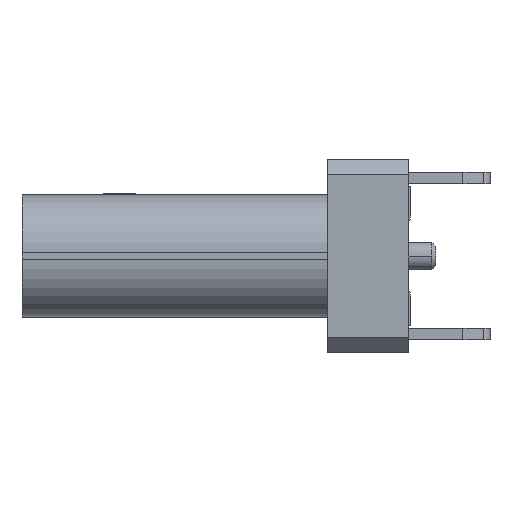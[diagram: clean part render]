
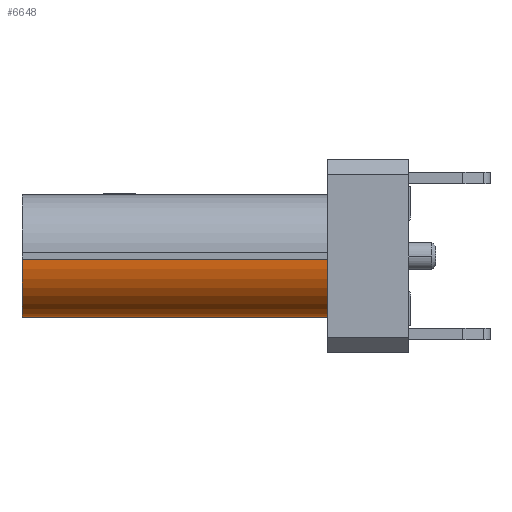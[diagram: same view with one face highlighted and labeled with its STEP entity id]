
A CAD part, left-side view. The second image highlights one B-rep face of the part: STEP entity #6648.
In plain terms, the highlighted cylindrical face has radius 1.5 mm (diameter 3 mm), a partial arc.
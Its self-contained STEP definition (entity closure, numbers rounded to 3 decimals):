
#388 = EDGE_CURVE ( 'NONE', #17693, #10707, #8419, .T. ) ;
#582 = CARTESIAN_POINT ( 'NONE',  ( 40.205, 6.951, -1.66 ) ) ;
#852 = CARTESIAN_POINT ( 'NONE',  ( 41.705, 21.951, -1.66 ) ) ;
#1932 = CARTESIAN_POINT ( 'NONE',  ( 41.705, 14.851, -1.66 ) ) ;
#2045 = CYLINDRICAL_SURFACE ( 'NONE', #8596, 1.5 ) ;
#2337 = DIRECTION ( 'NONE',  ( 0., -1., 0. ) ) ;
#3481 = EDGE_CURVE ( 'NONE', #16984, #11588, #9909, .T. ) ;
#3492 = EDGE_LOOP ( 'NONE', ( #17750, #7883, #8481, #10824 ) ) ;
#5737 = VECTOR ( 'NONE', #2337, 1000. ) ;
#6221 = DIRECTION ( 'NONE',  ( -1., 0., 0. ) ) ;
#6648 = ADVANCED_FACE ( 'NONE', ( #15729 ), #2045, .T. ) ;
#6832 = DIRECTION ( 'NONE',  ( -1., 0., 0. ) ) ;
#7240 = CARTESIAN_POINT ( 'NONE',  ( 40.205, 14.851, -1.66 ) ) ;
#7883 = ORIENTED_EDGE ( 'NONE', *, *, #9731, .T. ) ;
#8122 = DIRECTION ( 'NONE',  ( 0., -1., 0. ) ) ;
#8419 = LINE ( 'NONE', #17502, #8560 ) ;
#8481 = ORIENTED_EDGE ( 'NONE', *, *, #388, .F. ) ;
#8560 = VECTOR ( 'NONE', #8604, 1000. ) ;
#8596 = AXIS2_PLACEMENT_3D ( 'NONE', #852, #11213, #6832 ) ;
#8604 = DIRECTION ( 'NONE',  ( 0., 1., 0. ) ) ;
#8744 = CARTESIAN_POINT ( 'NONE',  ( 41.705, 14.851, -3.16 ) ) ;
#9731 = EDGE_CURVE ( 'NONE', #16984, #10707, #19468, .T. ) ;
#9909 = LINE ( 'NONE', #16311, #5737 ) ;
#10707 = VERTEX_POINT ( 'NONE', #8744 ) ;
#10824 = ORIENTED_EDGE ( 'NONE', *, *, #19011, .T. ) ;
#11213 = DIRECTION ( 'NONE',  ( 0., -1., 0. ) ) ;
#11588 = VERTEX_POINT ( 'NONE', #582 ) ;
#11901 = CIRCLE ( 'NONE', #16377, 1.5 ) ;
#14383 = AXIS2_PLACEMENT_3D ( 'NONE', #1932, #8122, #6221 ) ;
#15729 = FACE_OUTER_BOUND ( 'NONE', #3492, .T. ) ;
#15846 = DIRECTION ( 'NONE',  ( 0., 0., -1. ) ) ;
#16043 = DIRECTION ( 'NONE',  ( 0., 1., 0. ) ) ;
#16311 = CARTESIAN_POINT ( 'NONE',  ( 40.205, 14.851, -1.66 ) ) ;
#16377 = AXIS2_PLACEMENT_3D ( 'NONE', #18822, #16043, #15846 ) ;
#16984 = VERTEX_POINT ( 'NONE', #7240 ) ;
#17502 = CARTESIAN_POINT ( 'NONE',  ( 41.705, 6.951, -3.16 ) ) ;
#17693 = VERTEX_POINT ( 'NONE', #18061 ) ;
#17750 = ORIENTED_EDGE ( 'NONE', *, *, #3481, .F. ) ;
#18061 = CARTESIAN_POINT ( 'NONE',  ( 41.705, 6.951, -3.16 ) ) ;
#18822 = CARTESIAN_POINT ( 'NONE',  ( 41.705, 6.951, -1.66 ) ) ;
#19011 = EDGE_CURVE ( 'NONE', #17693, #11588, #11901, .T. ) ;
#19468 = CIRCLE ( 'NONE', #14383, 1.5 ) ;
